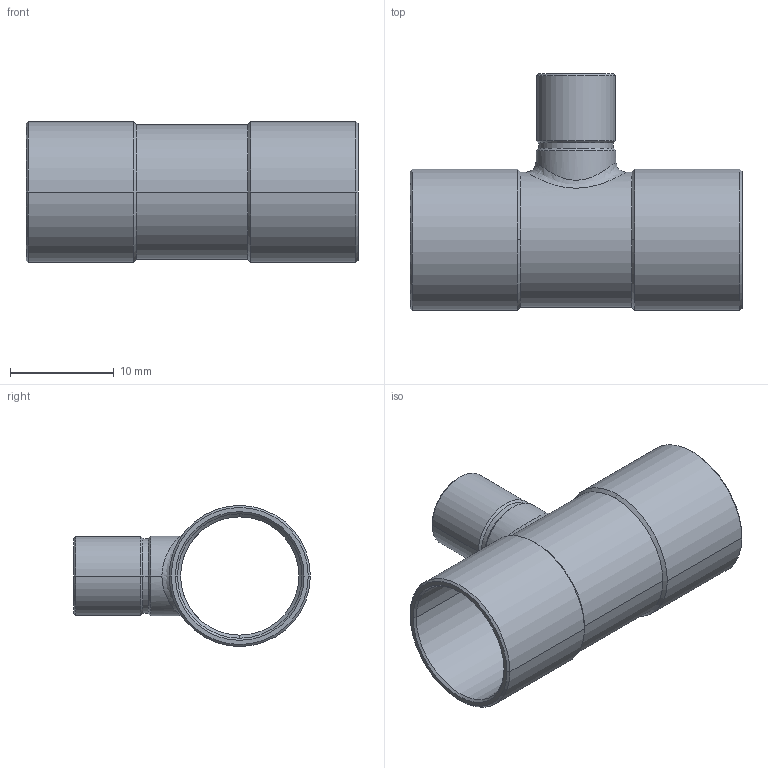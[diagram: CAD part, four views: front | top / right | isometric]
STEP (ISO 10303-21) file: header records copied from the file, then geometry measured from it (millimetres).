
FILE_DESCRIPTION((''),'2;1');
FILE_NAME('P:\Bouwmaten\z-maattekeningen 3D\5000\5130\513012612.stp','2005-10-26T11:52:35',('Kris'),(''),'Autodesk Inventor 8','Autodesk Inventor 8','');
FILE_SCHEMA(('AUTOMOTIVE_DESIGN { 1 0 10303 214 1 1 1 1 }'));
Length unit declared in the file: millimetre
Products named in the file (1): 513012612
Bounding box: 32 x 22.8 x 13.6 mm (x, y, z)
Volume: 1157.6 mm3; surface area: 2969.2 mm2
Topology: 1 solids, 1 shells, 57 faces, 140 edges, 84 vertices
Faces by surface type: cone 24, cylinder 20, bspline 10, plane 3
Entity records: 2138 total; most frequent: CARTESIAN_POINT 770, DIRECTION 296, ORIENTED_EDGE 280, EDGE_CURVE 140, AXIS2_PLACEMENT_3D 121, VERTEX_POINT 84, CIRCLE 73, EDGE_LOOP 60
